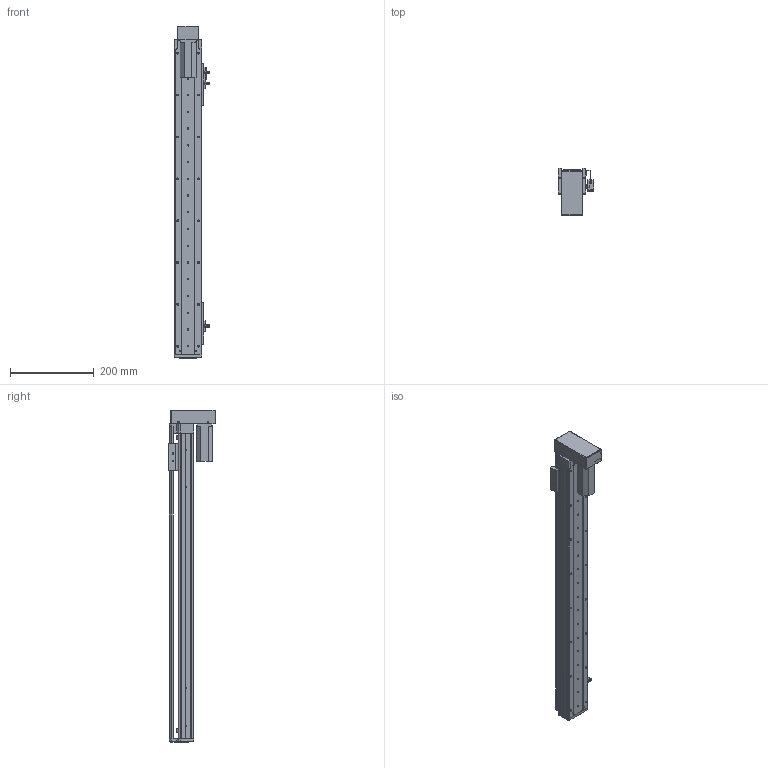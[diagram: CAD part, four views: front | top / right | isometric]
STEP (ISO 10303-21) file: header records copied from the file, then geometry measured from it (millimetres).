
FILE_DESCRIPTION (( 'STEP AP203' ), '1' );
FILE_NAME ('RY60-L1210-300-BK.SLDASM_600.step', '2021-02-20T06:42:19', ( '盈信电脑' ), ( '东莞市道滘镇水果街19号' ), 'SwSTEP 2.0', 'SolidWorks 2012', '' );
FILE_SCHEMA (( 'CONFIG_CONTROL_DESIGN' ));
Length unit declared in the file: millimetre
Products named in the file (13): RY60-300倰第菁釱-BK_600; RY60-L1210-300-BK.SLDASM_600; 滅袉蝶18-10; 侂狟100W; RY60狟殏萇儂假蚾啣; RY60狟殏萇儂欶100W; RY60转折电机端支撑座; RY60綴裔啣; 覜茼ん672; RY80俋离覜茼え; 672嫖萇羲壽假蚾釱; RY60-300倰第裔啣-BK_600; RY60臏賑輸
Assembly tree (18 placements, depth 2):
  RY60-L1210-300-BK.SLDASM_600
    RY60-300倰第菁釱-BK_600
    RY60臏賑輸
    RY60-300倰第裔啣-BK_600
    672嫖萇羲壽假蚾釱  x2
    RY60綴裔啣
    覜茼ん672  x3
    RY80俋离覜茼え
    RY60转折电机端支撑座
    RY60狟殏萇儂假蚾啣
    侂狟100W
    RY60狟殏萇儂欶100W
    滅袉蝶18-10  x4
Bounding box: 83.7 x 113.5 x 793 mm (x, y, z)
Volume: 1006590.2 mm3; surface area: 510868.7 mm2
Topology: 18 solids, 18 shells, 1474 faces, 4136 edges, 2650 vertices
Faces by surface type: plane 727, cylinder 620, cone 110, bspline 17
Entity records: 44547 total; most frequent: CARTESIAN_POINT 10761, ORIENTED_EDGE 6836, DIRECTION 6610, EDGE_CURVE 3418, AXIS2_PLACEMENT_3D 2269, VERTEX_POINT 2230, LINE 2072, VECTOR 2072
